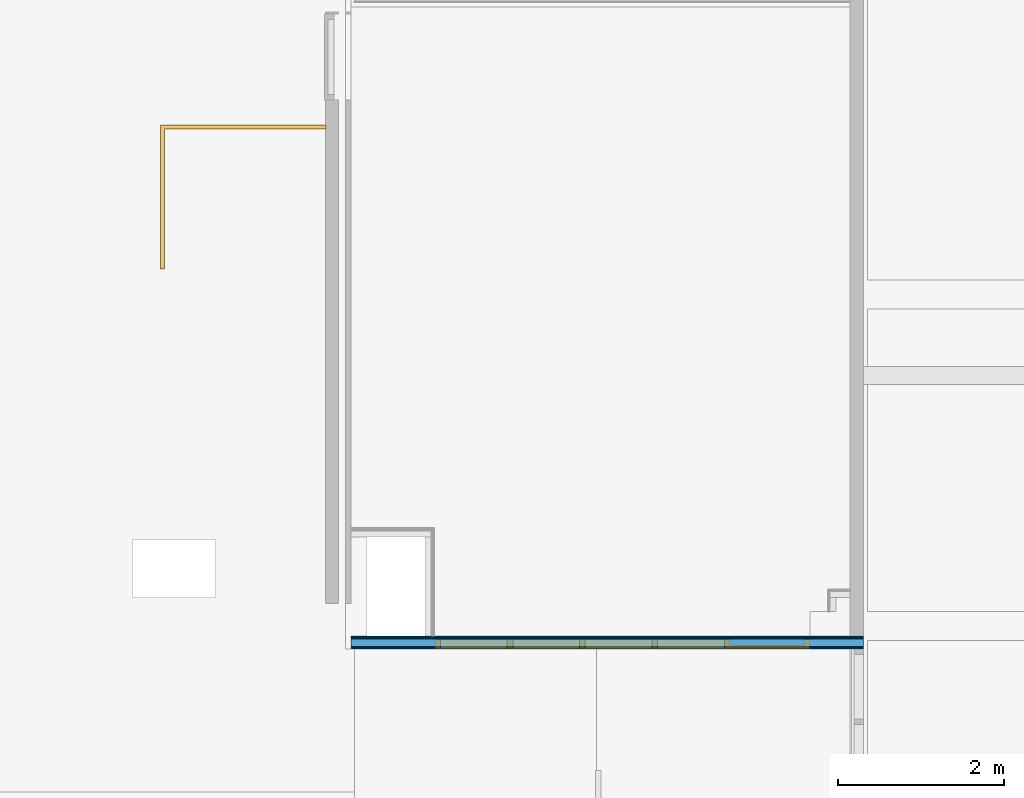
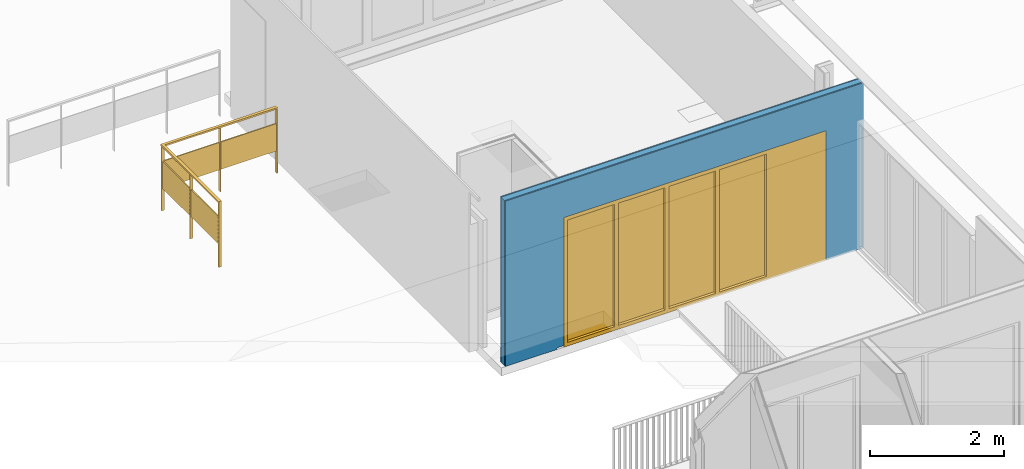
# One storey, part 19 of 25: 5 building element parts, 1 door, 1 railing, 1 opening, 1 element without a shape of its own.
"""IFC2X3 building model written with IfcOpenShell, lengths in millimetres."""

from ifc_helpers import new_model, entity, si_unit, converted_unit, derived_unit, money_unit, direction, frame, origin_with_axes, place, context, subcontext, project, spatial, open_shell, faceted_brep, surface_model, material, material_list, type_object, element, fill, aggregate, save


model = new_model("IFC2X3")

# Units and contexts
model_context = context("Model", 3, precision=0.01, world=origin_with_axes(), true_north=direction((0.0, 1.0)))
body_context = subcontext(model_context, "Body", "Model", "MODEL_VIEW")
ifc_project = project(units=[si_unit("LENGTHUNIT", "METRE", prefix="MILLI"), si_unit("AREAUNIT", "SQUARE_METRE"), si_unit("VOLUMEUNIT", "CUBIC_METRE"), converted_unit("PLANEANGLEUNIT", "DEGREE", entity("IfcPlaneAngleMeasure", 0.0174532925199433), si_unit("PLANEANGLEUNIT", "RADIAN"), dimensions=[0, 0, 0, 0, 0, 0, 0]), money_unit("EUR"), converted_unit("TIMEUNIT", "Year", entity("IfcTimeMeasure", 31557600.0), si_unit("TIMEUNIT", "SECOND"), dimensions=[0, 0, 1, 0, 0, 0, 0]), si_unit("MASSUNIT", "GRAM", prefix="KILO"), si_unit("THERMODYNAMICTEMPERATUREUNIT", "DEGREE_CELSIUS"), si_unit("LUMINOUSINTENSITYUNIT", "LUMEN"), si_unit("ENERGYUNIT", "JOULE", prefix="MEGA"), derived_unit("THERMALCONDUCTANCEUNIT", [(si_unit("POWERUNIT", "WATT"), 1), (si_unit("LENGTHUNIT", "METRE"), -1), (si_unit("THERMODYNAMICTEMPERATUREUNIT", "KELVIN"), -1)]), derived_unit("SPECIFICHEATCAPACITYUNIT", [(si_unit("ENERGYUNIT", "JOULE"), 1), (si_unit("MASSUNIT", "GRAM", prefix="KILO"), -1), (si_unit("THERMODYNAMICTEMPERATUREUNIT", "KELVIN"), -1)]), derived_unit("MASSDENSITYUNIT", [(si_unit("MASSUNIT", "GRAM", prefix="KILO"), 1), (si_unit("VOLUMEUNIT", "CUBIC_METRE"), -1)])], contexts=[model_context])

# Site, building, storey
site_placement = place(None, origin_with_axes())
site = spatial("IfcSite", under=ifc_project, at=site_placement, Name="<site naam>", CompositionType="ELEMENT")
building_placement = place(site_placement, origin_with_axes())
building = spatial("IfcBuilding", under=site, at=building_placement, Name="<Naam gebouw>", CompositionType="ELEMENT")
storey_placement = place(building_placement, frame((0.0, 0.0, 9563.0), z_axis=(0.0, 0.0, 1.0), x_axis=(1.0, 0.0, 0.0)))
storey = spatial("IfcBuildingStorey", under=building, at=storey_placement, Name="03 3e tussenverdieping", CompositionType="ELEMENT", Elevation=9563.0)

# Door
door_style = type_object("IfcDoorStyle", Name="D1 zl1-b 27", ConstructionType="NOTDEFINED", OperationType="SINGLE_SWING_LEFT", ParameterTakesPrecedence=False, Sizeable=False)
wall_placement = place(storey_placement, frame((58317.78284470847, 11725.00000000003, -29.99999999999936), z_axis=(0.0, 0.0, 1.0), x_axis=(-1.0, 0.0, 0.0)))
opening_placement = place(wall_placement, frame((2907.782844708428, 0.0, 0.0), z_axis=(0.0, 0.0, 1.0), x_axis=(1.0, 0.0, 0.0)))
door_placement = place(opening_placement, frame((-2265.0, 0.0, 0.0), z_axis=(0.0, 0.0, 1.0), x_axis=(1.0, 0.0, 0.0)))
door = element("IfcDoor", 1, at=door_placement, inside=storey, type_object=door_style, Name="22_BI-E-18_305", ObjectType="DOOR", OverallHeight=2367.0, OverallWidth=4530.0, context=body_context, shape_type="SurfaceModel", body=[
    faceted_brep([(4530.000000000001, 0.0, 0.0), (4530.000000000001, -113.9999999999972, 0.0), (4463.000000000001, -113.9999999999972, 0.0), (4463.000000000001, 0.0, 0.0), (4530.000000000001, 0.0, 2300.000000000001), (4530.000000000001, -113.9999999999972, 2300.000000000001), (4463.000000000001, -113.9999999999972, 2300.000000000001), (4463.000000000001, -113.9999999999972, 67.00000000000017), (4463.000000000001, 0.0, 67.00000000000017), (4463.000000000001, 0.0, 2300.000000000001)], [[[0, 1, 2, 3]], [[4, 5, 1, 0]], [[1, 5, 6, 7, 2]], [[3, 2, 7, 8]], [[0, 3, 8, 9, 4]], [[9, 6, 5, 4]], [[8, 7, 6, 9]]]),
    faceted_brep([(967.0000000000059, -39.99999999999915, 0.0), (967.0000000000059, -113.999999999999, 0.0), (967.0000000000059, -113.999999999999, 2300.000000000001), (967.0000000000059, -39.99999999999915, 2300.000000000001), (984.0000000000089, -39.99999999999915, 0.0), (984.0000000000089, 0.0, 0.0), (1034.000000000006, 0.0, 0.0), (1034.000000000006, -113.9999999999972, 0.0), (1034.000000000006, -113.9999999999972, 67.00000000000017), (1034.000000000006, -113.9999999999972, 2300.000000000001), (984.0000000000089, -39.99999999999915, 2300.000000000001), (1034.000000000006, 0.0, 2300.000000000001), (984.0000000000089, 0.0, 2300.000000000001), (1034.000000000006, 0.0, 67.00000000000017)], [[[0, 1, 2, 3]], [[4, 5, 6, 7, 1, 0]], [[7, 8, 9, 2, 1]], [[10, 3, 2, 9, 11, 12]], [[10, 4, 0, 3]], [[12, 5, 4, 10]], [[12, 11, 13, 6, 5]], [[6, 13, 8, 7]], [[13, 11, 9, 8]]]),
    faceted_brep([(4463.000000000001, 0.0, 67.00000000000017), (4463.000000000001, -113.9999999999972, 67.00000000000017), (4463.000000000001, -113.9999999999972, 0.0), (4463.000000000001, 0.0, 0.0), (1034.000000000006, 0.0, 67.00000000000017), (1034.000000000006, -113.9999999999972, 67.00000000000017), (1034.000000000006, -113.9999999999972, 0.0), (1034.000000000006, 0.0, 0.0)], [[[0, 1, 2, 3]], [[4, 5, 1, 0]], [[1, 5, 6, 2]], [[3, 2, 6, 7]], [[0, 3, 7, 4]], [[7, 6, 5, 4]]]),
    faceted_brep([(49.99999999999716, -39.99999999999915, 2300.000000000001), (49.99999999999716, 0.0, 2300.000000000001), (0.0, 0.0, 2300.000000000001), (0.0, -113.999999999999, 2300.000000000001), (67.00000000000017, -113.999999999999, 2300.000000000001), (67.00000000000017, -39.99999999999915, 2300.000000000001), (49.99999999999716, -39.99999999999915, 0.0), (49.99999999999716, 0.0, 0.0), (0.0, 0.0, 0.0), (0.0, -113.999999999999, 0.0), (67.00000000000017, -113.999999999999, 0.0), (67.00000000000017, -39.99999999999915, 0.0)], [[[0, 1, 2, 3, 4, 5]], [[0, 6, 7, 1]], [[7, 8, 2, 1]], [[2, 8, 9, 3]], [[3, 9, 10, 4]], [[5, 4, 10, 11]], [[5, 11, 6, 0]], [[6, 11, 10, 9, 8, 7]]]),
    faceted_brep([(984.0000000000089, 0.0, 2317.0), (49.99999999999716, 0.0, 2317.0), (49.99999999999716, 0.0, 2300.000000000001), (0.0, 0.0, 2300.000000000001), (0.0, 0.0, 2367.000000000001), (4530.000000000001, 0.0, 2367.000000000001), (4530.000000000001, 0.0, 2300.000000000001), (4463.000000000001, 0.0, 2300.000000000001), (1034.000000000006, 0.0, 2300.000000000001), (984.0000000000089, 0.0, 2300.000000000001), (984.0000000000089, -39.99999999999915, 2317.0), (49.99999999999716, -39.99999999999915, 2317.0), (49.99999999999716, -39.99999999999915, 2300.000000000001), (67.00000000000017, -39.99999999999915, 2300.000000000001), (67.00000000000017, -113.999999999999, 2300.000000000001), (0.0, -113.999999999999, 2300.000000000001), (0.0, -113.999999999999, 2367.000000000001), (4530.000000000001, -113.9999999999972, 2367.000000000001), (4530.000000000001, -113.9999999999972, 2300.000000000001), (4463.000000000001, -113.9999999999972, 2300.000000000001), (1034.000000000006, -113.9999999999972, 2300.000000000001), (984.0000000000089, -39.99999999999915, 2300.000000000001), (967.0000000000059, -113.999999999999, 2300.000000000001)], [[[0, 1, 2, 3, 4, 5, 6, 7, 8, 9]], [[0, 10, 11, 1]], [[1, 11, 12, 2]], [[12, 13, 14, 15, 3, 2]], [[4, 3, 15, 16]], [[5, 4, 16, 17]], [[6, 5, 17, 18]], [[7, 6, 18, 19]], [[8, 7, 19, 20]], [[21, 9, 8, 20, 22, 14, 13]], [[9, 21, 10, 0]], [[12, 11, 10, 21, 13]], [[14, 22, 20, 19, 18, 17, 16, 15]]]),
    faceted_brep([(49.99999999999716, 0.0, 0.0), (984.0000000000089, 0.0, 0.0), (984.0000000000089, -39.99999999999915, 0.0), (49.99999999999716, -39.99999999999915, 0.0), (49.99999999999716, 0.0, 2317.0), (984.0000000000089, 0.0, 2317.0), (984.0000000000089, -39.99999999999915, 2317.0), (49.99999999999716, -39.99999999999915, 2317.0)], [[[0, 1, 2, 3]], [[0, 4, 5, 1]], [[1, 5, 6, 2]], [[3, 2, 6, 7]], [[4, 0, 3, 7]], [[5, 4, 7, 6]]]),
    surface_model("IfcShellBasedSurfaceModel", [(3656.000000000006, -59.99999999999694, 67.00000000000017), (4463.000000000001, -59.99999999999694, 67.00000000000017), (4463.000000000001, -59.99999999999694, 2300.000000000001), (3656.000000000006, -59.99999999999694, 2300.000000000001)], [open_shell([[[0, 1, 2, 3]]])]),
    surface_model("IfcShellBasedSurfaceModel", [(3656.000000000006, -47.99999999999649, 67.00000000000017), (3656.000000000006, -47.99999999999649, 2300.000000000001), (4463.000000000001, -47.99999999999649, 2300.000000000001), (4463.000000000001, -47.99999999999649, 67.00000000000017)], [open_shell([[[0, 1, 2, 3]]])]),
    surface_model("IfcShellBasedSurfaceModel", [(2782.000000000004, -59.99999999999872, 67.00000000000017), (3589.000000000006, -59.99999999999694, 67.00000000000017), (3589.000000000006, -59.99999999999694, 2300.000000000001), (2782.000000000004, -59.99999999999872, 2300.000000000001)], [open_shell([[[0, 1, 2, 3]]])]),
    surface_model("IfcShellBasedSurfaceModel", [(2782.000000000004, -47.99999999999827, 67.00000000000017), (2782.000000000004, -47.99999999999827, 2300.000000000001), (3589.000000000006, -47.99999999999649, 2300.000000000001), (3589.000000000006, -47.99999999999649, 67.00000000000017)], [open_shell([[[0, 1, 2, 3]]])]),
    surface_model("IfcShellBasedSurfaceModel", [(1908.000000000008, -59.99999999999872, 67.00000000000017), (2715.000000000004, -59.99999999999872, 67.00000000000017), (2715.000000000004, -59.99999999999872, 2300.000000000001), (1908.000000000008, -59.99999999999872, 2300.000000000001)], [open_shell([[[0, 1, 2, 3]]])]),
    surface_model("IfcShellBasedSurfaceModel", [(1908.000000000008, -47.99999999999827, 67.00000000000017), (1908.000000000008, -47.99999999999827, 2300.000000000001), (2715.000000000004, -47.99999999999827, 2300.000000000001), (2715.000000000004, -47.99999999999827, 67.00000000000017)], [open_shell([[[0, 1, 2, 3]]])]),
    surface_model("IfcShellBasedSurfaceModel", [(1034.000000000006, -59.99999999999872, 67.00000000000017), (1841.000000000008, -59.99999999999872, 67.00000000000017), (1841.000000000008, -59.99999999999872, 2300.000000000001), (1034.000000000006, -59.99999999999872, 2300.000000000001)], [open_shell([[[0, 1, 2, 3]]])]),
    surface_model("IfcShellBasedSurfaceModel", [(1034.000000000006, -47.99999999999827, 67.00000000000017), (1034.000000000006, -47.99999999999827, 2300.000000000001), (1841.000000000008, -47.99999999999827, 2300.000000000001), (1841.000000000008, -47.99999999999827, 67.00000000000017)], [open_shell([[[0, 1, 2, 3]]])]),
    faceted_brep([(3656.000000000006, -113.9999999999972, 67.00000000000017), (3589.000000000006, -113.9999999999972, 67.00000000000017), (3589.000000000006, 0.0, 67.00000000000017), (3656.000000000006, 0.0, 67.00000000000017), (3656.000000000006, -113.9999999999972, 2300.000000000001), (3589.000000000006, -113.9999999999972, 2300.000000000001), (3589.000000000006, 0.0, 2300.000000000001), (3656.000000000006, 0.0, 2300.000000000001)], [[[0, 1, 2, 3]], [[0, 4, 5, 1]], [[1, 5, 6, 2]], [[3, 2, 6, 7]], [[4, 0, 3, 7]], [[5, 4, 7, 6]]]),
    faceted_brep([(2782.000000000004, -113.999999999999, 67.00000000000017), (2715.000000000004, -113.999999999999, 67.00000000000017), (2715.000000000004, 0.0, 67.00000000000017), (2782.000000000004, 0.0, 67.00000000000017), (2782.000000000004, -113.999999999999, 2300.000000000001), (2715.000000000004, -113.999999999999, 2300.000000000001), (2715.000000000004, 0.0, 2300.000000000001), (2782.000000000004, 0.0, 2300.000000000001)], [[[0, 1, 2, 3]], [[0, 4, 5, 1]], [[1, 5, 6, 2]], [[3, 2, 6, 7]], [[4, 0, 3, 7]], [[5, 4, 7, 6]]]),
    faceted_brep([(1908.000000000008, -113.999999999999, 67.00000000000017), (1841.000000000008, -113.999999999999, 67.00000000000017), (1841.000000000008, 0.0, 67.00000000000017), (1908.000000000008, 0.0, 67.00000000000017), (1908.000000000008, -113.9999999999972, 2300.000000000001), (1841.000000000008, -113.9999999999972, 2300.000000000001), (1841.000000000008, 0.0, 2300.000000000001), (1908.000000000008, 0.0, 2300.000000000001)], [[[0, 1, 2, 3]], [[0, 4, 5, 1]], [[1, 5, 6, 2]], [[3, 2, 6, 7]], [[4, 0, 3, 7]], [[5, 4, 7, 6]]]),
])

# Railing
ifc_material_1 = material(Name="staal balustrade")
ifc_material_2 = material(Name="hout AFW")
ifc_material_list = material_list([ifc_material_1, ifc_material_1, ifc_material_1, ifc_material_1, ifc_material_1, ifc_material_1, ifc_material_2, ifc_material_1, ifc_material_2, ifc_material_1, ifc_material_2, ifc_material_1, ifc_material_2])
railing_type = type_object("IfcRailingType", Name="Railing Type", PredefinedType="NOTDEFINED")
railing_placement = place(storey_placement, frame((49810.00000000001, 16320.00000000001, 3.000000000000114), z_axis=(0.0, 0.0, 1.0), x_axis=(1.0, 0.0, 0.0)))
element("IfcRailing", 2, at=railing_placement, inside=storey, type_object=railing_type, material=ifc_material_list, Name="34_Reling_", PredefinedType="NOTDEFINED", context=body_context, shape_type="Brep", body=[
    faceted_brep([(74.99999999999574, 10.00000000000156, -199.9999999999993), (24.99999999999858, 10.00000000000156, -199.9999999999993), (24.99999999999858, 10.00000000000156, 980.0000000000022), (74.99999999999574, 10.00000000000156, 980.0000000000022), (74.99999999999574, -10.00000000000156, -199.9999999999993), (24.99999999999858, -10.00000000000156, -199.9999999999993), (24.99999999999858, -10.00000000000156, 980.0000000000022), (74.99999999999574, -10.00000000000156, 980.0000000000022)], [[[0, 1, 2, 3]], [[0, 4, 5, 1]], [[1, 5, 6, 2]], [[3, 2, 6, 7]], [[4, 0, 3, 7]], [[5, 4, 7, 6]]]),
    faceted_brep([(24.99999999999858, 0.0, 1000.000000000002), (24.99999999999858, 0.0, 970.0000000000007), (24.99999999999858, -10.00000000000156, 970.0000000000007), (24.99999999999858, -10.00000000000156, 1000.000000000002), (74.99999999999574, 0.0, 1000.000000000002), (74.99999999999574, 0.0, 970.0000000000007), (74.99999999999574, -10.00000000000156, 970.0000000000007), (74.99999999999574, -10.00000000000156, 1000.000000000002)], [[[0, 1, 2, 3]], [[0, 4, 5, 1]], [[1, 5, 6, 2]], [[3, 2, 6, 7]], [[4, 0, 3, 7]], [[5, 4, 7, 6]]]),
    faceted_brep([(74.99999999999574, 1714.981629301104, -199.9999999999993), (24.99999999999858, 1714.981629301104, -199.9999999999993), (24.99999999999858, 1714.981629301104, 980.0000000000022), (74.99999999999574, 1714.981629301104, 980.0000000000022), (74.99999999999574, 1694.9816293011, -199.9999999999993), (24.99999999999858, 1694.9816293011, -199.9999999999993), (24.99999999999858, 1694.9816293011, 980.0000000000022), (74.99999999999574, 1694.9816293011, 980.0000000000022)], [[[0, 1, 2, 3]], [[0, 4, 5, 1]], [[1, 5, 6, 2]], [[3, 2, 6, 7]], [[4, 0, 3, 7]], [[5, 4, 7, 6]]]),
    faceted_brep([(2024.000060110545, 1679.981629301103, -199.9999999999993), (2024.000060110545, 1729.981629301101, -199.9999999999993), (2024.000060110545, 1729.981629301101, 980.0000000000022), (2024.000060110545, 1679.981629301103, 980.0000000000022), (2004.000060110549, 1679.981629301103, -199.9999999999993), (2004.000060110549, 1729.981629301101, -199.9999999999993), (2004.000060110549, 1729.981629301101, 980.0000000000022), (2004.000060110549, 1679.981629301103, 980.0000000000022)], [[[0, 1, 2, 3]], [[0, 4, 5, 1]], [[1, 5, 6, 2]], [[3, 2, 6, 7]], [[4, 0, 3, 7]], [[5, 4, 7, 6]]]),
    faceted_brep([(2014.000060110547, 1679.981629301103, 1000.0), (2014.000060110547, 1679.981629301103, 970.0000000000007), (2024.000060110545, 1679.981629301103, 970.0000000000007), (2024.000060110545, 1679.981629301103, 1000.0), (2014.000060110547, 1729.981629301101, 1000.0), (2014.000060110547, 1729.981629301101, 970.0000000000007), (2024.000060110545, 1729.981629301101, 970.0000000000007), (2024.000060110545, 1729.981629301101, 1000.0)], [[[0, 1, 2, 3]], [[0, 4, 5, 1]], [[1, 5, 6, 2]], [[3, 2, 6, 7]], [[4, 0, 3, 7]], [[5, 4, 7, 6]]]),
    faceted_brep([(74.99999999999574, 0.0, 1000.0), (74.99999999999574, 0.0, 970.0000000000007), (74.99999999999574, 1679.981629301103, 970.0000000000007), (74.99999999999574, 1679.981629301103, 1000.0), (24.99999999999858, 0.0, 1000.0), (24.99999999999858, 0.0, 970.0000000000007), (24.99999999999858, 1729.981629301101, 970.0000000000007), (24.99999999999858, 1729.981629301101, 1000.0)], [[[0, 1, 2, 3]], [[0, 4, 5, 1]], [[1, 5, 6, 2]], [[3, 2, 6, 7]], [[4, 0, 3, 7]], [[5, 4, 7, 6]]]),
    faceted_brep([(39.99999999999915, 842.4908146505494, 200.0000000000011), (39.99999999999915, 10.00000000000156, 200.0000000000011), (39.99999999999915, 10.00000000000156, 699.9999999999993), (39.99999999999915, 842.4908146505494, 699.9999999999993), (59.99999999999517, 10.00000000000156, 200.0000000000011), (59.99999999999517, 842.4908146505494, 200.0000000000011), (59.99999999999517, 10.00000000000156, 699.9999999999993), (59.99999999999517, 842.4908146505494, 699.9999999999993)], [[[0, 1, 2, 3]], [[4, 1, 0, 5]], [[6, 2, 1, 4]], [[3, 2, 6, 7]], [[0, 3, 7, 5]], [[6, 4, 5, 7]]]),
    faceted_brep([(74.99999999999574, 857.49081465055, -199.9999999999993), (24.99999999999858, 857.49081465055, -199.9999999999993), (24.99999999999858, 857.49081465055, 1000.000000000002), (74.99999999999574, 857.49081465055, 1000.000000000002), (74.99999999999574, 847.490814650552, -199.9999999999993), (24.99999999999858, 847.490814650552, -199.9999999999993), (24.99999999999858, 847.490814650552, 1000.000000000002), (74.99999999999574, 847.490814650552, 1000.000000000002)], [[[0, 1, 2, 3]], [[0, 4, 5, 1]], [[1, 5, 6, 2]], [[3, 2, 6, 7]], [[4, 0, 3, 7]], [[5, 4, 7, 6]]]),
    faceted_brep([(39.99999999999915, 1694.9816293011, 200.0000000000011), (39.99999999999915, 862.4908146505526, 200.0000000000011), (39.99999999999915, 862.4908146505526, 699.9999999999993), (39.99999999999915, 1694.9816293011, 699.9999999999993), (59.99999999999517, 862.4908146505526, 200.0000000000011), (59.99999999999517, 1694.9816293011, 200.0000000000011), (59.99999999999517, 862.4908146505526, 699.9999999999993), (59.99999999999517, 1694.9816293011, 699.9999999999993)], [[[0, 1, 2, 3]], [[4, 1, 0, 5]], [[6, 2, 1, 4]], [[3, 2, 6, 7]], [[0, 3, 7, 5]], [[6, 4, 5, 7]]]),
    faceted_brep([(74.99999999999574, 1679.981629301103, 1000.0), (74.99999999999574, 1679.981629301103, 970.0000000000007), (2014.000060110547, 1679.981629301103, 970.0000000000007), (2014.000060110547, 1679.981629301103, 1000.0), (24.99999999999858, 1729.981629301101, 1000.0), (24.99999999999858, 1729.981629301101, 970.0000000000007), (2014.000060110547, 1729.981629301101, 970.0000000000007), (2014.000060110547, 1729.981629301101, 1000.0)], [[[0, 1, 2, 3]], [[0, 4, 5, 1]], [[1, 5, 6, 2]], [[3, 2, 6, 7]], [[4, 0, 3, 7]], [[5, 4, 7, 6]]]),
    faceted_brep([(1022.000030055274, 1714.981629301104, 200.0000000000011), (59.99999999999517, 1714.981629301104, 200.0000000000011), (59.99999999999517, 1714.981629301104, 699.9999999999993), (1022.000030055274, 1714.981629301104, 699.9999999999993), (59.99999999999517, 1694.9816293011, 200.0000000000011), (1022.000030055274, 1694.9816293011, 200.0000000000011), (59.99999999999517, 1694.9816293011, 699.9999999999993), (1022.000030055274, 1694.9816293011, 699.9999999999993)], [[[0, 1, 2, 3]], [[4, 1, 0, 5]], [[6, 2, 1, 4]], [[3, 2, 6, 7]], [[0, 3, 7, 5]], [[6, 4, 5, 7]]]),
    faceted_brep([(1037.000030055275, 1679.981629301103, -199.9999999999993), (1037.000030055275, 1729.981629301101, -199.9999999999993), (1037.000030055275, 1729.981629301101, 1000.000000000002), (1037.000030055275, 1679.981629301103, 1000.000000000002), (1027.000030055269, 1679.981629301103, -199.9999999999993), (1027.000030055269, 1729.981629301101, -199.9999999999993), (1027.000030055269, 1729.981629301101, 1000.000000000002), (1027.000030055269, 1679.981629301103, 1000.000000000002)], [[[0, 1, 2, 3]], [[0, 4, 5, 1]], [[1, 5, 6, 2]], [[3, 2, 6, 7]], [[4, 0, 3, 7]], [[5, 4, 7, 6]]]),
    faceted_brep([(2004.000060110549, 1714.981629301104, 200.0000000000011), (1042.00003005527, 1714.981629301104, 200.0000000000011), (1042.00003005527, 1714.981629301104, 699.9999999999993), (2004.000060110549, 1714.981629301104, 699.9999999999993), (1042.00003005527, 1694.9816293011, 200.0000000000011), (2004.000060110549, 1694.9816293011, 200.0000000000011), (1042.00003005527, 1694.9816293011, 699.9999999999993), (2004.000060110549, 1694.9816293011, 699.9999999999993)], [[[0, 1, 2, 3]], [[4, 1, 0, 5]], [[6, 2, 1, 4]], [[3, 2, 6, 7]], [[0, 3, 7, 5]], [[6, 4, 5, 7]]]),
])

# Wall, opening
wall_type = type_object("IfcWallType", Name="MS-01 GF 150 ECO DGS/2.100.2.A 150", PredefinedType="NOTDEFINED")
wall = element("IfcWall", 3, at=wall_placement, inside=storey, type_object=wall_type, Name="22_Binnenwand_MS-01")
opening = element("IfcOpeningElement", 4, at=opening_placement, cuts=wall, Name="22_BI-E-18_305", context=body_context, shape_type="Brep", body=[
    faceted_brep([(-2265.0, -151.0000000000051, 2367.000000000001), (-2265.0, -151.0000000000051, 0.0), (2265.0, -151.0000000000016, 0.0), (2265.0, -151.0000000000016, 2367.000000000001), (-2265.0, 0.9999999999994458, 2367.000000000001), (-2265.0, 0.9999999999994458, 0.0), (2265.0, 1.000000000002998, 0.0), (2265.0, 1.000000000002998, 2367.000000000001)], [[[0, 1, 2, 3]], [[4, 5, 1, 0]], [[5, 6, 2, 1]], [[6, 7, 3, 2]], [[7, 4, 0, 3]], [[6, 5, 4, 7]]]),
])

fill(opening, door)

# Building element part
ifc_material_3 = material(Name="gipsplaat")
building_element_part_1_placement = place(wall_placement, origin_with_axes())
building_element_part_1 = element("IfcBuildingElementPart", 5, at=building_element_part_1_placement, material=ifc_material_3, Name="gipsplaat", context=body_context, shape_type="Brep", body=[
    faceted_brep([(6182.782844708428, -24.99999999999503, 3017.000014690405), (0.0, -25.00000000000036, 3017.000014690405), (0.0, -25.00000000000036, 0.0), (642.782952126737, -25.00000000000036, 0.0), (642.782952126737, -25.00000000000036, 29.99999999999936), (642.7828889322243, -25.00000000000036, 32.99999999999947), (5180.282809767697, -24.9999999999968, 32.99999999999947), (5180.282809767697, -24.9999999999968, 29.99999999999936), (5292.782761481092, -24.9999999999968, 29.99999999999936), (5292.782761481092, -24.9999999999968, 0.0), (6182.782844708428, -24.99999999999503, 0.0), (0.0, -12.49999999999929, 3017.000014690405), (6182.782844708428, -12.49999999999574, 3017.000014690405), (0.0, -12.49999999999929, 0.0), (642.782952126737, -12.49999999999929, 0.0), (642.782952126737, -12.50000000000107, 29.99999999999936), (642.7828889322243, -12.50000000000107, 32.99999999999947), (5180.282809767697, -12.49999999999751, 32.99999999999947), (5180.282809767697, -12.49999999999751, 29.99999999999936), (5292.782761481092, -12.49999999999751, 29.99999999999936), (5292.782761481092, -12.49999999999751, 0.0), (6182.782844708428, -12.49999999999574, 0.0)], [[[0, 1, 2, 3, 4, 5, 6, 7, 8, 9, 10]], [[11, 1, 0, 12]], [[1, 11, 13, 2]], [[13, 14, 3, 2]], [[14, 15, 4, 3]], [[5, 4, 15, 16]], [[17, 6, 5, 16]], [[17, 18, 7, 6]], [[19, 8, 7, 18]], [[20, 9, 8, 19]], [[10, 9, 20, 21]], [[12, 0, 10, 21]], [[11, 12, 21, 20, 19, 18, 17, 16, 15, 14, 13]]]),
])

building_element_part_2_placement = place(wall_placement, origin_with_axes())
building_element_part_2 = element("IfcBuildingElementPart", 6, at=building_element_part_2_placement, material=ifc_material_3, Name="gipsplaat", context=body_context, shape_type="Brep", body=[
    faceted_brep([(6182.782844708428, -12.49999999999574, 3017.000014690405), (0.0, -12.49999999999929, 3017.000014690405), (0.0, -12.49999999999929, 0.0), (642.782952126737, -12.49999999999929, 0.0), (642.782952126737, -12.50000000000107, 29.99999999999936), (642.7828889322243, -12.50000000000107, 32.99999999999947), (5180.282809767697, -12.49999999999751, 32.99999999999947), (5180.282809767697, -12.49999999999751, 29.99999999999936), (5292.782761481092, -12.49999999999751, 29.99999999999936), (5292.782761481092, -12.49999999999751, 0.0), (6182.782844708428, -12.49999999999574, 0.0), (0.0, 0.0, 3017.000014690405), (6182.782844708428, 0.0, 3017.000014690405), (0.0, 0.0, 0.0), (642.782952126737, -1.814959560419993e-05, 0.0), (642.782952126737, -1.814959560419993e-05, 29.99999999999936), (642.7828889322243, 1.099201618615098e-05, 32.99999999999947), (5180.282809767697, 1.099201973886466e-05, 32.99999999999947), (5180.282809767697, -1.814959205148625e-05, 29.99999999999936), (5292.782761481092, -1.814959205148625e-05, 29.99999999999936), (5292.782761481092, -1.814959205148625e-05, 0.0), (6182.782844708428, 0.0, 0.0)], [[[0, 1, 2, 3, 4, 5, 6, 7, 8, 9, 10]], [[11, 1, 0, 12]], [[1, 11, 13, 2]], [[13, 14, 3, 2]], [[14, 15, 4, 3]], [[5, 4, 15, 16]], [[17, 6, 5, 16]], [[17, 18, 7, 6]], [[19, 8, 7, 18]], [[20, 9, 8, 19]], [[10, 9, 20, 21]], [[12, 0, 10, 21]], [[11, 12, 21, 20, 19, 18, 17, 16, 15, 14, 13]]]),
])

ifc_material_4 = material(Name="isolatie_steenwol LSW")
building_element_part_3_placement = place(wall_placement, origin_with_axes())
building_element_part_3 = element("IfcBuildingElementPart", 7, at=building_element_part_3_placement, material=ifc_material_4, Name="isolatie_steenwol LSW", context=body_context, shape_type="Brep", body=[
    faceted_brep([(6182.782844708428, -124.9999999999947, 3017.000014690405), (0.0, -125.0, 3017.000014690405), (0.0, -125.0, 0.0), (642.782952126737, -125.0, 0.0), (642.782952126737, -125.0, 29.99999999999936), (642.7828889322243, -125.0, 32.99999999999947), (5180.282809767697, -124.9999999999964, 32.99999999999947), (5180.282809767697, -124.9999999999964, 29.99999999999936), (5292.782761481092, -124.9999999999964, 29.99999999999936), (5292.782761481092, -124.9999999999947, 0.0), (6182.782844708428, -124.9999999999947, 0.0), (0.0, -25.00000000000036, 3017.000014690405), (6182.782844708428, -24.99999999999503, 3017.000014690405), (0.0, -25.00000000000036, 0.0), (642.782952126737, -25.00000000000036, 0.0), (642.782952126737, -25.00000000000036, 29.99999999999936), (642.7828889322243, -25.00000000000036, 32.99999999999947), (5180.282809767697, -24.9999999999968, 32.99999999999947), (5180.282809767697, -24.9999999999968, 29.99999999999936), (5292.782761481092, -24.9999999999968, 29.99999999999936), (5292.782761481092, -24.9999999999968, 0.0), (6182.782844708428, -24.99999999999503, 0.0)], [[[0, 1, 2, 3, 4, 5, 6, 7, 8, 9, 10]], [[11, 1, 0, 12]], [[1, 11, 13, 2]], [[13, 14, 3, 2]], [[14, 15, 4, 3]], [[5, 4, 15, 16]], [[17, 6, 5, 16]], [[17, 18, 7, 6]], [[19, 8, 7, 18]], [[20, 9, 8, 19]], [[10, 9, 20, 21]], [[12, 0, 10, 21]], [[11, 12, 21, 20, 19, 18, 17, 16, 15, 14, 13]]]),
])

building_element_part_4_placement = place(wall_placement, origin_with_axes())
building_element_part_4 = element("IfcBuildingElementPart", 8, at=building_element_part_4_placement, material=ifc_material_3, Name="gipsplaat", context=body_context, shape_type="Brep", body=[
    faceted_brep([(6182.782844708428, -149.999999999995, 3017.000014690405), (0.0, -150.0000000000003, 3017.000014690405), (0.0, -150.0000000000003, 0.0), (642.782952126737, -150.0000000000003, 0.0), (642.782952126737, -150.0000000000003, 29.99999999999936), (642.7828889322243, -150.0000000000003, 32.99999999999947), (5180.282809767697, -149.9999999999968, 32.99999999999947), (5180.282809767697, -149.9999999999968, 29.99999999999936), (5292.782761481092, -149.9999999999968, 29.99999999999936), (5292.782761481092, -149.9999999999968, 0.0), (6182.782844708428, -149.999999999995, 0.0), (0.0, -137.4999999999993, 3017.000014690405), (6182.782844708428, -137.4999999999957, 3017.000014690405), (0.0, -137.4999999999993, 0.0), (642.782952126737, -137.4999999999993, 0.0), (642.782952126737, -137.5000000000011, 29.99999999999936), (642.7828889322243, -137.5000000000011, 32.99999999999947), (5180.282809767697, -137.4999999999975, 32.99999999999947), (5180.282809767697, -137.4999999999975, 29.99999999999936), (5292.782761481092, -137.4999999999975, 29.99999999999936), (5292.782761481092, -137.4999999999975, 0.0), (6182.782844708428, -137.4999999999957, 0.0)], [[[0, 1, 2, 3, 4, 5, 6, 7, 8, 9, 10]], [[11, 1, 0, 12]], [[1, 11, 13, 2]], [[13, 14, 3, 2]], [[14, 15, 4, 3]], [[5, 4, 15, 16]], [[17, 6, 5, 16]], [[17, 18, 7, 6]], [[19, 8, 7, 18]], [[20, 9, 8, 19]], [[10, 9, 20, 21]], [[12, 0, 10, 21]], [[11, 12, 21, 20, 19, 18, 17, 16, 15, 14, 13]]]),
])

building_element_part_5_placement = place(wall_placement, origin_with_axes())
building_element_part_5 = element("IfcBuildingElementPart", 9, at=building_element_part_5_placement, material=ifc_material_3, Name="gipsplaat", context=body_context, shape_type="Brep", body=[
    faceted_brep([(6182.782844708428, -137.4999999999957, 3017.000014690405), (0.0, -137.4999999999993, 3017.000014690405), (0.0, -137.4999999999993, 0.0), (642.782952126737, -137.4999999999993, 0.0), (642.782952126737, -137.5000000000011, 29.99999999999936), (642.7828889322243, -137.5000000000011, 32.99999999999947), (5180.282809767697, -137.4999999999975, 32.99999999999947), (5180.282809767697, -137.4999999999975, 29.99999999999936), (5292.782761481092, -137.4999999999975, 29.99999999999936), (5292.782761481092, -137.4999999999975, 0.0), (6182.782844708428, -137.4999999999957, 0.0), (0.0, -125.0, 3017.000014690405), (6182.782844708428, -124.9999999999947, 3017.000014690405), (0.0, -125.0, 0.0), (642.782952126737, -125.0, 0.0), (642.782952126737, -125.0, 29.99999999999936), (642.7828889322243, -125.0, 32.99999999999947), (5180.282809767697, -124.9999999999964, 32.99999999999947), (5180.282809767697, -124.9999999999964, 29.99999999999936), (5292.782761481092, -124.9999999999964, 29.99999999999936), (5292.782761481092, -124.9999999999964, 0.0), (6182.782844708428, -124.9999999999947, 0.0)], [[[0, 1, 2, 3, 4, 5, 6, 7, 8, 9, 10]], [[11, 1, 0, 12]], [[1, 11, 13, 2]], [[13, 14, 3, 2]], [[14, 15, 4, 3]], [[5, 4, 15, 16]], [[17, 6, 5, 16]], [[17, 18, 7, 6]], [[19, 8, 7, 18]], [[20, 9, 8, 19]], [[10, 9, 20, 21]], [[12, 0, 10, 21]], [[11, 12, 21, 20, 19, 18, 17, 16, 15, 14, 13]]]),
])

aggregate(wall, [building_element_part_1, building_element_part_2, building_element_part_3, building_element_part_4, building_element_part_5])

save(model, "model.ifc")
